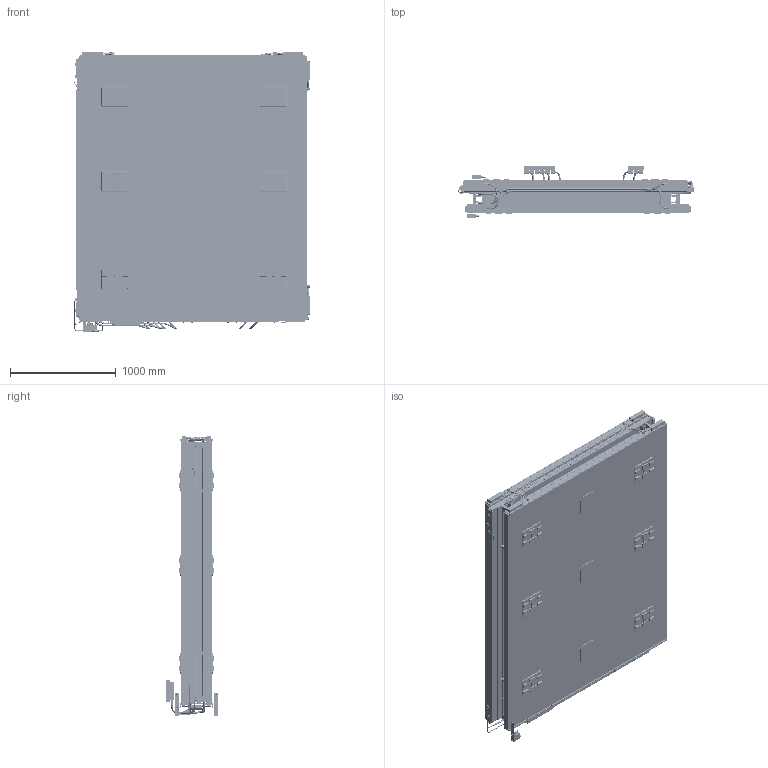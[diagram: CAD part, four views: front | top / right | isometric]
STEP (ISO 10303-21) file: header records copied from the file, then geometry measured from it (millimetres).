
FILE_DESCRIPTION(/* description */ (''),/* implementation_level */ '2;1');
FILE_NAME(/* name */ '030930_mb1_-2_1_4_phi_R_carters.stp',/* time_stamp */ '2022-04-14T11:19:16+02:00',/* author */ (''),/* organization */ (''),/* preprocessor_version */ 'ST-DEVELOPER v18.1',/* originating_system */ 'SIEMENS PLM Software NX 1992',/* authorisation */ '');
FILE_SCHEMA (('AUTOMOTIVE_DESIGN { 1 0 10303 214 3 1 1 1 }'));
Products named in the file (1): zago349C2021bj6p
Bounding box: 2224 x 489.79 x 2646.12 mm (x, y, z)
Volume: 1534420738.2 mm3; surface area: 162273654.6 mm2
Topology: 354 solids, 354 shells, 15783 faces, 40758 edges, 25711 vertices
Faces by surface type: plane 9842, cylinder 4806, cone 845, bspline 150, torus 104, sphere 36
Full cylindrical faces by diameter (mm): 1 x191, 1.675 x12, 2.594 x54, 3 x72, 3.2 x12, 3.25 x4, 3.3 x36, 3.432 x437, 3.5 x50, 3.778 x7, 4 x35, 4.8 x32, 5 x58, 5.188 x64, 5.5 x272, 6 x39, 6.4 x35, 6.5 x18, 7 x3, 7.188 x4, 7.5 x72, 8 x63, 8.6 x6, 8.782 x28, 8.8 x20, 8.933 x24, 8.985 x24, 9.391 x48, 9.5 x68, 10 x12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
Entity records: 494766 total; most frequent: CARTESIAN_POINT 121242, ORIENTED_EDGE 72476, DIRECTION 69848, EDGE_CURVE 36238, AXIS2_PLACEMENT_3D 25370, VERTEX_POINT 24444, EDGE_LOOP 21525, LINE 19108
